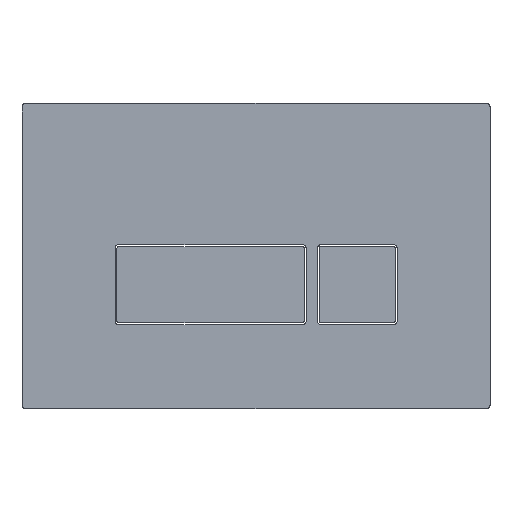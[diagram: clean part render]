
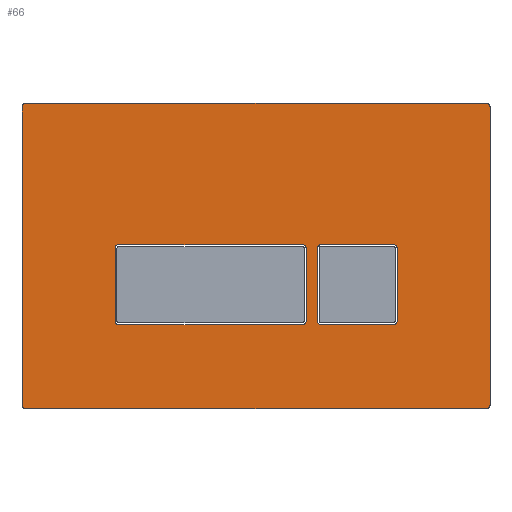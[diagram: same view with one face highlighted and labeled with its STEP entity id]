
A CAD part, top view. The second image highlights one B-rep face of the part: STEP entity #66.
In plain terms, the highlighted planar face has unit normal (0, 0, 1).
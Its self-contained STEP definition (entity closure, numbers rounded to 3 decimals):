
#66 = ADVANCED_FACE('',(#67,#137,#207),#277,.T.);
#67 = FACE_BOUND('',#68,.T.);
#68 = EDGE_LOOP('',(#69,#79,#88,#96,#105,#113,#122,#130));
#69 = ORIENTED_EDGE('',*,*,#70,.T.);
#70 = EDGE_CURVE('',#71,#73,#75,.T.);
#71 = VERTEX_POINT('',#72);
#72 = CARTESIAN_POINT('',(120.5,80.,5.));
#73 = VERTEX_POINT('',#74);
#74 = CARTESIAN_POINT('',(-120.5,80.,5.
    ));
#75 = LINE('',#76,#77);
#76 = CARTESIAN_POINT('',(120.5,80.,5.));
#77 = VECTOR('',#78,1.);
#78 = DIRECTION('',(-1.,0.,0.));
#79 = ORIENTED_EDGE('',*,*,#80,.T.);
#80 = EDGE_CURVE('',#73,#81,#83,.T.);
#81 = VERTEX_POINT('',#82);
#82 = CARTESIAN_POINT('',(-122.5,78.,5.
    ));
#83 = CIRCLE('',#84,2.);
#84 = AXIS2_PLACEMENT_3D('',#85,#86,#87);
#85 = CARTESIAN_POINT('',(-120.5,78.,5.
    ));
#86 = DIRECTION('',(0.,0.,1.));
#87 = DIRECTION('',(1.,0.,-0.));
#88 = ORIENTED_EDGE('',*,*,#89,.T.);
#89 = EDGE_CURVE('',#81,#90,#92,.T.);
#90 = VERTEX_POINT('',#91);
#91 = CARTESIAN_POINT('',(-122.5,-78.,5.));
#92 = LINE('',#93,#94);
#93 = CARTESIAN_POINT('',(-122.5,78.,5.
    ));
#94 = VECTOR('',#95,1.);
#95 = DIRECTION('',(0.,-1.,0.));
#96 = ORIENTED_EDGE('',*,*,#97,.T.);
#97 = EDGE_CURVE('',#90,#98,#100,.T.);
#98 = VERTEX_POINT('',#99);
#99 = CARTESIAN_POINT('',(-120.5,-80.,5.));
#100 = CIRCLE('',#101,2.);
#101 = AXIS2_PLACEMENT_3D('',#102,#103,#104);
#102 = CARTESIAN_POINT('',(-120.5,-78.,5.));
#103 = DIRECTION('',(0.,0.,1.));
#104 = DIRECTION('',(1.,0.,-0.));
#105 = ORIENTED_EDGE('',*,*,#106,.T.);
#106 = EDGE_CURVE('',#98,#107,#109,.T.);
#107 = VERTEX_POINT('',#108);
#108 = CARTESIAN_POINT('',(120.5,-80.,5.));
#109 = LINE('',#110,#111);
#110 = CARTESIAN_POINT('',(-120.5,-80.,5.));
#111 = VECTOR('',#112,1.);
#112 = DIRECTION('',(1.,0.,0.));
#113 = ORIENTED_EDGE('',*,*,#114,.T.);
#114 = EDGE_CURVE('',#107,#115,#117,.T.);
#115 = VERTEX_POINT('',#116);
#116 = CARTESIAN_POINT('',(122.5,-78.,5.));
#117 = CIRCLE('',#118,2.);
#118 = AXIS2_PLACEMENT_3D('',#119,#120,#121);
#119 = CARTESIAN_POINT('',(120.5,-78.,5.));
#120 = DIRECTION('',(0.,0.,1.));
#121 = DIRECTION('',(1.,0.,-0.));
#122 = ORIENTED_EDGE('',*,*,#123,.T.);
#123 = EDGE_CURVE('',#115,#124,#126,.T.);
#124 = VERTEX_POINT('',#125);
#125 = CARTESIAN_POINT('',(122.5,78.,5.));
#126 = LINE('',#127,#128);
#127 = CARTESIAN_POINT('',(122.5,-78.,5.));
#128 = VECTOR('',#129,1.);
#129 = DIRECTION('',(0.,1.,0.));
#130 = ORIENTED_EDGE('',*,*,#131,.T.);
#131 = EDGE_CURVE('',#124,#71,#132,.T.);
#132 = CIRCLE('',#133,2.);
#133 = AXIS2_PLACEMENT_3D('',#134,#135,#136);
#134 = CARTESIAN_POINT('',(120.5,78.,5.));
#135 = DIRECTION('',(0.,0.,1.));
#136 = DIRECTION('',(1.,0.,-0.));
#137 = FACE_BOUND('',#138,.T.);
#138 = EDGE_LOOP('',(#139,#149,#158,#166,#175,#183,#192,#200));
#139 = ORIENTED_EDGE('',*,*,#140,.T.);
#140 = EDGE_CURVE('',#141,#143,#145,.T.);
#141 = VERTEX_POINT('',#142);
#142 = CARTESIAN_POINT('',(71.883,-35.924,
    5.));
#143 = VERTEX_POINT('',#144);
#144 = CARTESIAN_POINT('',(34.143,-35.924,
    5.));
#145 = LINE('',#146,#147);
#146 = CARTESIAN_POINT('',(71.883,-35.924,
    5.));
#147 = VECTOR('',#148,1.);
#148 = DIRECTION('',(-1.,0.,0.));
#149 = ORIENTED_EDGE('',*,*,#150,.T.);
#150 = EDGE_CURVE('',#143,#151,#153,.T.);
#151 = VERTEX_POINT('',#152);
#152 = CARTESIAN_POINT('',(32.143,-33.924,
    5.));
#153 = CIRCLE('',#154,2.);
#154 = AXIS2_PLACEMENT_3D('',#155,#156,#157);
#155 = CARTESIAN_POINT('',(34.143,-33.924,
    5.));
#156 = DIRECTION('',(0.,0.,-1.));
#157 = DIRECTION('',(1.,0.,0.));
#158 = ORIENTED_EDGE('',*,*,#159,.T.);
#159 = EDGE_CURVE('',#151,#160,#162,.T.);
#160 = VERTEX_POINT('',#161);
#161 = CARTESIAN_POINT('',(32.143,3.948,5.
    ));
#162 = LINE('',#163,#164);
#163 = CARTESIAN_POINT('',(32.143,-33.924,
    5.));
#164 = VECTOR('',#165,1.);
#165 = DIRECTION('',(0.,1.,0.));
#166 = ORIENTED_EDGE('',*,*,#167,.T.);
#167 = EDGE_CURVE('',#160,#168,#170,.T.);
#168 = VERTEX_POINT('',#169);
#169 = CARTESIAN_POINT('',(34.143,5.948,5.
    ));
#170 = CIRCLE('',#171,2.);
#171 = AXIS2_PLACEMENT_3D('',#172,#173,#174);
#172 = CARTESIAN_POINT('',(34.143,3.948,5.
    ));
#173 = DIRECTION('',(0.,0.,-1.));
#174 = DIRECTION('',(1.,0.,0.));
#175 = ORIENTED_EDGE('',*,*,#176,.T.);
#176 = EDGE_CURVE('',#168,#177,#179,.T.);
#177 = VERTEX_POINT('',#178);
#178 = CARTESIAN_POINT('',(71.883,5.948,5.
    ));
#179 = LINE('',#180,#181);
#180 = CARTESIAN_POINT('',(34.143,5.948,5.
    ));
#181 = VECTOR('',#182,1.);
#182 = DIRECTION('',(1.,0.,0.));
#183 = ORIENTED_EDGE('',*,*,#184,.T.);
#184 = EDGE_CURVE('',#177,#185,#187,.T.);
#185 = VERTEX_POINT('',#186);
#186 = CARTESIAN_POINT('',(73.883,3.948,5.
    ));
#187 = CIRCLE('',#188,2.);
#188 = AXIS2_PLACEMENT_3D('',#189,#190,#191);
#189 = CARTESIAN_POINT('',(71.883,3.948,5.
    ));
#190 = DIRECTION('',(0.,0.,-1.));
#191 = DIRECTION('',(1.,0.,0.));
#192 = ORIENTED_EDGE('',*,*,#193,.T.);
#193 = EDGE_CURVE('',#185,#194,#196,.T.);
#194 = VERTEX_POINT('',#195);
#195 = CARTESIAN_POINT('',(73.883,-33.924,
    5.));
#196 = LINE('',#197,#198);
#197 = CARTESIAN_POINT('',(73.883,3.948,5.
    ));
#198 = VECTOR('',#199,1.);
#199 = DIRECTION('',(0.,-1.,0.));
#200 = ORIENTED_EDGE('',*,*,#201,.T.);
#201 = EDGE_CURVE('',#194,#141,#202,.T.);
#202 = CIRCLE('',#203,2.);
#203 = AXIS2_PLACEMENT_3D('',#204,#205,#206);
#204 = CARTESIAN_POINT('',(71.883,-33.924,
    5.));
#205 = DIRECTION('',(0.,0.,-1.));
#206 = DIRECTION('',(1.,0.,0.));
#207 = FACE_BOUND('',#208,.T.);
#208 = EDGE_LOOP('',(#209,#220,#228,#237,#245,#254,#262,#271));
#209 = ORIENTED_EDGE('',*,*,#210,.T.);
#210 = EDGE_CURVE('',#211,#213,#215,.T.);
#211 = VERTEX_POINT('',#212);
#212 = CARTESIAN_POINT('',(24.209,5.948,5.
    ));
#213 = VERTEX_POINT('',#214);
#214 = CARTESIAN_POINT('',(26.209,3.948,5.
    ));
#215 = CIRCLE('',#216,2.);
#216 = AXIS2_PLACEMENT_3D('',#217,#218,#219);
#217 = CARTESIAN_POINT('',(24.209,3.948,5.
    ));
#218 = DIRECTION('',(0.,0.,-1.));
#219 = DIRECTION('',(1.,0.,0.));
#220 = ORIENTED_EDGE('',*,*,#221,.T.);
#221 = EDGE_CURVE('',#213,#222,#224,.T.);
#222 = VERTEX_POINT('',#223);
#223 = CARTESIAN_POINT('',(26.209,-33.924,
    5.));
#224 = LINE('',#225,#226);
#225 = CARTESIAN_POINT('',(26.209,3.948,5.
    ));
#226 = VECTOR('',#227,1.);
#227 = DIRECTION('',(0.,-1.,0.));
#228 = ORIENTED_EDGE('',*,*,#229,.T.);
#229 = EDGE_CURVE('',#222,#230,#232,.T.);
#230 = VERTEX_POINT('',#231);
#231 = CARTESIAN_POINT('',(24.209,-35.924,
    5.));
#232 = CIRCLE('',#233,2.);
#233 = AXIS2_PLACEMENT_3D('',#234,#235,#236);
#234 = CARTESIAN_POINT('',(24.209,-33.924,
    5.));
#235 = DIRECTION('',(0.,0.,-1.));
#236 = DIRECTION('',(1.,0.,0.));
#237 = ORIENTED_EDGE('',*,*,#238,.T.);
#238 = EDGE_CURVE('',#230,#239,#241,.T.);
#239 = VERTEX_POINT('',#240);
#240 = CARTESIAN_POINT('',(-71.791,-35.924,
    5.));
#241 = LINE('',#242,#243);
#242 = CARTESIAN_POINT('',(24.209,-35.924,
    5.));
#243 = VECTOR('',#244,1.);
#244 = DIRECTION('',(-1.,0.,0.));
#245 = ORIENTED_EDGE('',*,*,#246,.T.);
#246 = EDGE_CURVE('',#239,#247,#249,.T.);
#247 = VERTEX_POINT('',#248);
#248 = CARTESIAN_POINT('',(-73.791,-33.924,
    5.));
#249 = CIRCLE('',#250,2.);
#250 = AXIS2_PLACEMENT_3D('',#251,#252,#253);
#251 = CARTESIAN_POINT('',(-71.791,-33.924,
    5.));
#252 = DIRECTION('',(0.,0.,-1.));
#253 = DIRECTION('',(1.,0.,0.));
#254 = ORIENTED_EDGE('',*,*,#255,.T.);
#255 = EDGE_CURVE('',#247,#256,#258,.T.);
#256 = VERTEX_POINT('',#257);
#257 = CARTESIAN_POINT('',(-73.791,3.948,5.
    ));
#258 = LINE('',#259,#260);
#259 = CARTESIAN_POINT('',(-73.791,-33.924,
    5.));
#260 = VECTOR('',#261,1.);
#261 = DIRECTION('',(0.,1.,0.));
#262 = ORIENTED_EDGE('',*,*,#263,.T.);
#263 = EDGE_CURVE('',#256,#264,#266,.T.);
#264 = VERTEX_POINT('',#265);
#265 = CARTESIAN_POINT('',(-71.791,5.948,5.
    ));
#266 = CIRCLE('',#267,2.);
#267 = AXIS2_PLACEMENT_3D('',#268,#269,#270);
#268 = CARTESIAN_POINT('',(-71.791,3.948,5.
    ));
#269 = DIRECTION('',(0.,0.,-1.));
#270 = DIRECTION('',(1.,0.,0.));
#271 = ORIENTED_EDGE('',*,*,#272,.T.);
#272 = EDGE_CURVE('',#264,#211,#273,.T.);
#273 = LINE('',#274,#275);
#274 = CARTESIAN_POINT('',(-71.791,5.948,5.
    ));
#275 = VECTOR('',#276,1.);
#276 = DIRECTION('',(1.,0.,0.));
#277 = PLANE('',#278);
#278 = AXIS2_PLACEMENT_3D('',#279,#280,#281);
#279 = CARTESIAN_POINT('',(-122.5,80.,
    5.));
#280 = DIRECTION('',(0.,0.,1.));
#281 = DIRECTION('',(-1.,0.,0.));
